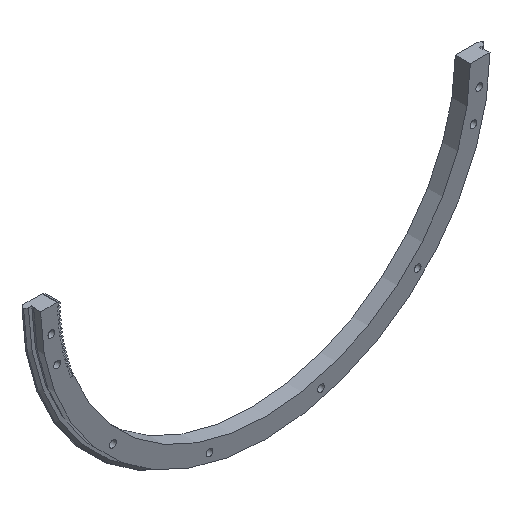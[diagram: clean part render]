
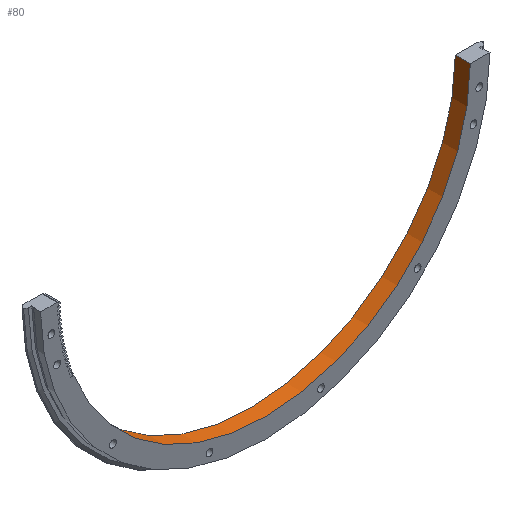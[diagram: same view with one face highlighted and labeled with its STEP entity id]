
A CAD part, isometric view. The second image highlights one B-rep face of the part: STEP entity #80.
In plain terms, the highlighted cylindrical face has radius 167 mm (diameter 334 mm), a partial arc.
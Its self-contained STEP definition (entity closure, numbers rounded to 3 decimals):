
#80 = ADVANCED_FACE( '', ( #207 ), #208, .F. );
#207 = FACE_OUTER_BOUND( '', #474, .T. );
#208 = CYLINDRICAL_SURFACE( '', #475, 167. );
#474 = EDGE_LOOP( '', ( #849, #850, #851, #852 ) );
#475 = AXIS2_PLACEMENT_3D( '', #853, #854, #855 );
#849 = ORIENTED_EDGE( '', *, *, #1680, .F. );
#850 = ORIENTED_EDGE( '', *, *, #1755, .T. );
#851 = ORIENTED_EDGE( '', *, *, #1756, .T. );
#852 = ORIENTED_EDGE( '', *, *, #1658, .T. );
#853 = CARTESIAN_POINT( '', ( 0., 0., 0. ) );
#854 = DIRECTION( '', ( 0., 1., 0. ) );
#855 = DIRECTION( '', ( 0., 0., -1. ) );
#1658 = EDGE_CURVE( '', #1944, #1960, #1962, .F. );
#1680 = EDGE_CURVE( '', #2003, #1960, #2005, .T. );
#1755 = EDGE_CURVE( '', #2003, #2151, #2152, .T. );
#1756 = EDGE_CURVE( '', #2151, #1944, #2153, .T. );
#1944 = VERTEX_POINT( '', #2443 );
#1960 = VERTEX_POINT( '', #2479 );
#1962 = LINE( '', #2482, #2483 );
#2003 = VERTEX_POINT( '', #2534 );
#2005 = CIRCLE( '', #2537, 167. );
#2151 = VERTEX_POINT( '', #2719 );
#2152 = LINE( '', #2720, #2721 );
#2153 = CIRCLE( '', #2722, 167. );
#2443 = CARTESIAN_POINT( '', ( 166.993, 0., -1.5 ) );
#2479 = CARTESIAN_POINT( '', ( 166.993, 12.25, -1.5 ) );
#2482 = CARTESIAN_POINT( '', ( 166.993, 0., -1.5 ) );
#2483 = VECTOR( '', #3146, 1000. );
#2534 = CARTESIAN_POINT( '', ( -155.849, 12.25, -60. ) );
#2537 = AXIS2_PLACEMENT_3D( '', #3188, #3189, #3190 );
#2719 = CARTESIAN_POINT( '', ( -155.849, 0., -60. ) );
#2720 = CARTESIAN_POINT( '', ( -155.849, 0., -60. ) );
#2721 = VECTOR( '', #3341, 1000. );
#2722 = AXIS2_PLACEMENT_3D( '', #3342, #3343, #3344 );
#3146 = DIRECTION( '', ( 0., -1., 0. ) );
#3188 = CARTESIAN_POINT( '', ( 0., 12.25, 0. ) );
#3189 = DIRECTION( '', ( 0., -1., 0. ) );
#3190 = DIRECTION( '', ( 0., 0., -1. ) );
#3341 = DIRECTION( '', ( 0., -1., 0. ) );
#3342 = CARTESIAN_POINT( '', ( 0., 0., 0. ) );
#3343 = DIRECTION( '', ( 0., -1., 0. ) );
#3344 = DIRECTION( '', ( 0., 0., -1. ) );
